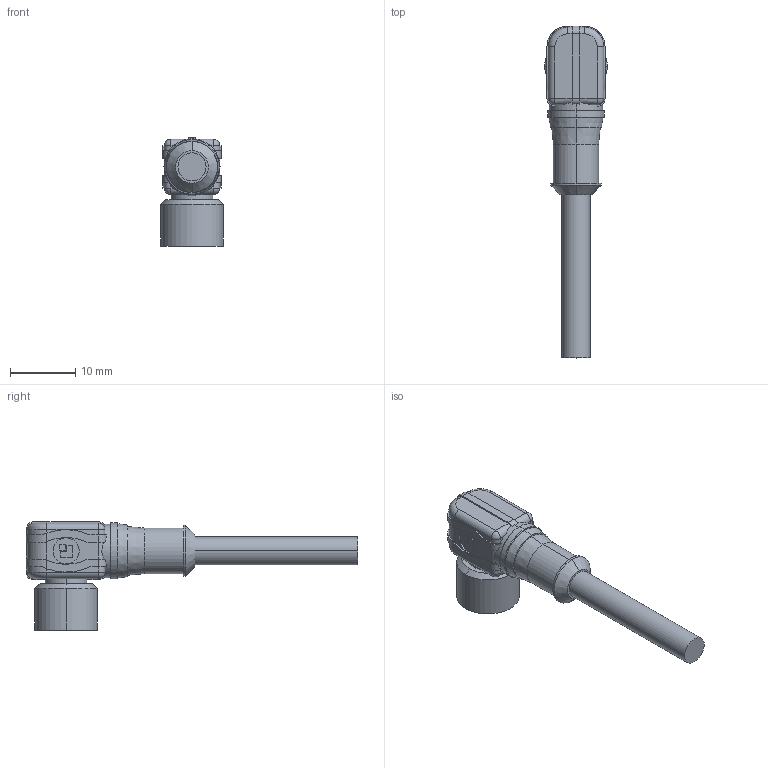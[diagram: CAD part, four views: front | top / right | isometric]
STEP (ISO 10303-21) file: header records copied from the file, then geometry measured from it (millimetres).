
FILE_DESCRIPTION(('Creo Elements/Direct Modeling STEP Export'),'2;1');
FILE_NAME('C:/Data/JobServerData/JobServer Files/65cb98e5-8d5b-4f56-bb43-fecff9871484/work/output/model.stp','2019-01-22T14:39:46',(''),(''),'PTC Creo Elements/Direct Modeling STEP processor for AP214 (Solid Model)','PTC Creo Elements/Direct Modeling 19.0B 21-Mar-2015 (C) Parametric Technology GmbH','');
FILE_SCHEMA(('AUTOMOTIVE_DESIGN { 1 0 10303 214 1 1 1 1 }'));
Length unit declared in the file: millimetre
Products named in the file (1): 0805_04
Bounding box: 9.6 x 50.9 x 16.6 mm (x, y, z)
Volume: 2189.3 mm3; surface area: 1759.7 mm2
Topology: 1 solids, 1 shells, 215 faces, 561 edges, 361 vertices
Faces by surface type: plane 109, cylinder 82, cone 14, torus 6, sphere 4
Entity records: 6806 total; most frequent: CARTESIAN_POINT 1712, ORIENTED_EDGE 1114, DIRECTION 908, EDGE_CURVE 557, VERTEX_POINT 361, AXIS2_PLACEMENT_3D 319, VECTOR 270, LINE 270
